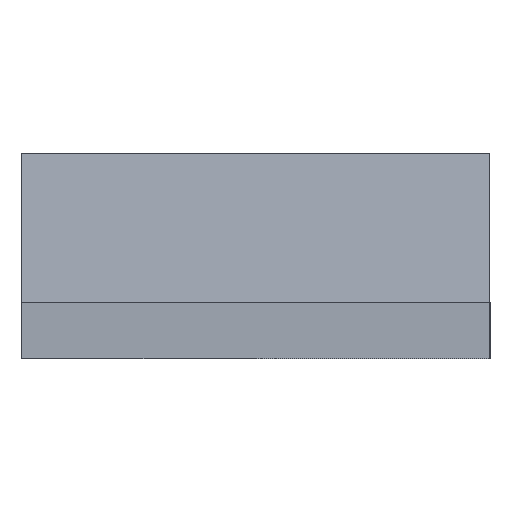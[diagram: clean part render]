
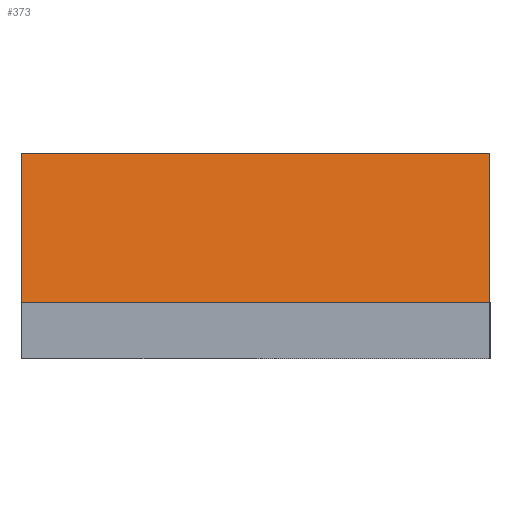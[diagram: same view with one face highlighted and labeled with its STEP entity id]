
A CAD part, left-side view. The second image highlights one B-rep face of the part: STEP entity #373.
In plain terms, the highlighted planar face has unit normal (-0.992, 0, 0.124).
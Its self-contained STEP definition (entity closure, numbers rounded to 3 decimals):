
#27=FACE_OUTER_BOUND('',#47,.T.);
#47=EDGE_LOOP('',(#249,#250,#251,#252));
#67=LINE('',#543,#113);
#68=LINE('',#545,#114);
#69=LINE('',#547,#115);
#70=LINE('',#548,#116);
#113=VECTOR('',#439,10.);
#114=VECTOR('',#440,10.);
#115=VECTOR('',#441,10.);
#116=VECTOR('',#442,10.);
#159=VERTEX_POINT('',#541);
#160=VERTEX_POINT('',#542);
#161=VERTEX_POINT('',#544);
#162=VERTEX_POINT('',#546);
#195=EDGE_CURVE('',#159,#160,#67,.T.);
#196=EDGE_CURVE('',#160,#161,#68,.T.);
#197=EDGE_CURVE('',#161,#162,#69,.T.);
#198=EDGE_CURVE('',#162,#159,#70,.T.);
#249=ORIENTED_EDGE('',*,*,#195,.T.);
#250=ORIENTED_EDGE('',*,*,#196,.T.);
#251=ORIENTED_EDGE('',*,*,#197,.T.);
#252=ORIENTED_EDGE('',*,*,#198,.T.);
#357=PLANE('',#407);
#373=ADVANCED_FACE('',(#27),#357,.T.);
#407=AXIS2_PLACEMENT_3D('',#540,#437,#438);
#437=DIRECTION('center_axis',(-0.992,0.,0.124));
#438=DIRECTION('ref_axis',(0.124,0.,0.992));
#439=DIRECTION('',(0.124,0.,0.992));
#440=DIRECTION('',(0.,1.,0.));
#441=DIRECTION('',(-0.124,0.,-0.992));
#442=DIRECTION('',(0.,-1.,0.));
#540=CARTESIAN_POINT('Origin',(-6.3,1.25,1.4));
#541=CARTESIAN_POINT('',(-6.4,-2.5,0.6));
#542=CARTESIAN_POINT('',(-6.2,-2.5,2.2));
#543=CARTESIAN_POINT('',(-6.387,-2.5,0.705));
#544=CARTESIAN_POINT('',(-6.2,2.5,2.2));
#545=CARTESIAN_POINT('',(-6.2,1.25,2.2));
#546=CARTESIAN_POINT('',(-6.4,2.5,0.6));
#547=CARTESIAN_POINT('',(-6.384,2.5,0.73));
#548=CARTESIAN_POINT('',(-6.4,1.25,0.6));
